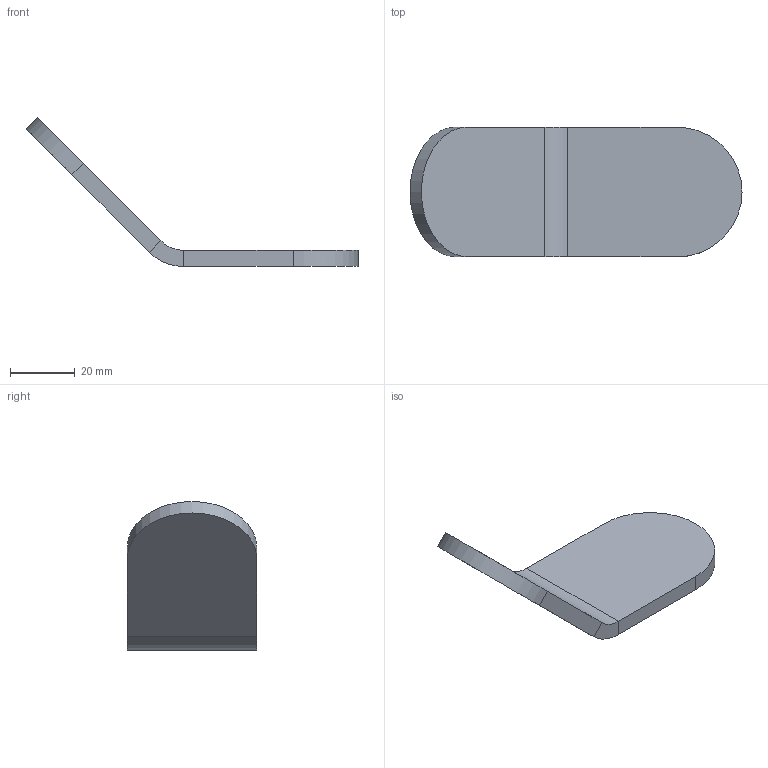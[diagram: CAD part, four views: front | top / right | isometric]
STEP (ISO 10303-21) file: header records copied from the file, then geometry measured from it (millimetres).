
FILE_DESCRIPTION (( 'STEP AP214' ), '1' );
FILE_NAME ('NIK_111.STEP', '2021-11-29T08:45:00', ( '' ), ( '' ), 'SwSTEP 2.0', 'SolidWorks 2019', '' );
FILE_SCHEMA (( 'AUTOMOTIVE_DESIGN' ));
Length unit declared in the file: millimetre
Products named in the file (1): NIK_111
Bounding box: 102.43 x 40 x 45.96 mm (x, y, z)
Volume: 21761.4 mm3; surface area: 10106.8 mm2
Topology: 1 solids, 1 shells, 15 faces, 31 edges, 18 vertices
Faces by surface type: plane 10, cylinder 5
Entity records: 425 total; most frequent: DIRECTION 73, CARTESIAN_POINT 65, ORIENTED_EDGE 62, EDGE_CURVE 31, AXIS2_PLACEMENT_3D 26, LINE 21, VECTOR 21, VERTEX_POINT 18
